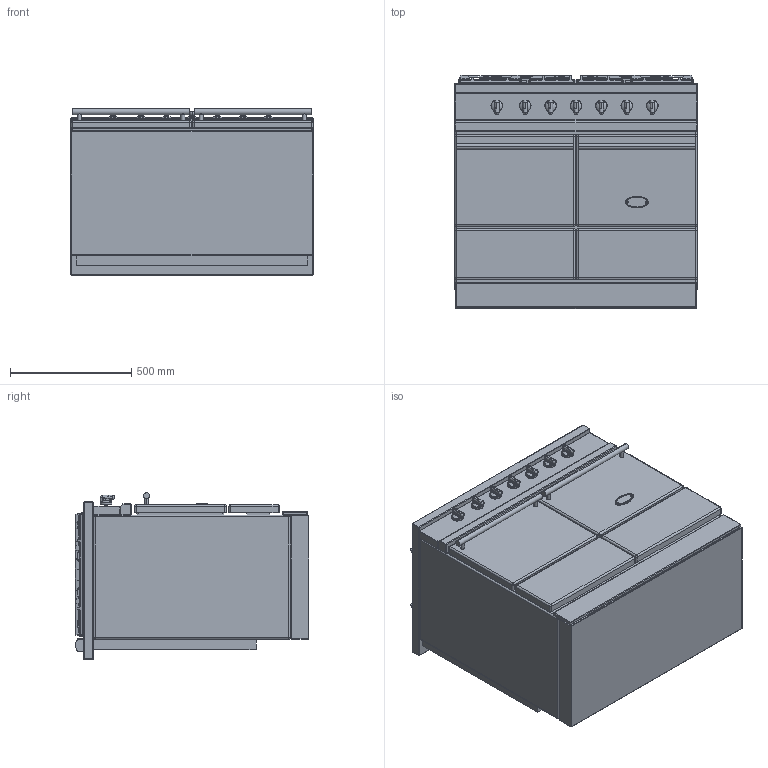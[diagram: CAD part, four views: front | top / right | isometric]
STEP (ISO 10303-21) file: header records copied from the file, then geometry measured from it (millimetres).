
FILE_DESCRIPTION((''),'2;1');
FILE_NAME('LMG1052_ASM','2022-04-13T11:33:14',('stagiaire'),(''),'CREO PARAMETRIC BY PTC INC, 2021424','CREO PARAMETRIC BY PTC INC, 2021424','');
FILE_SCHEMA(('AP203_CONFIGURATION_CONTROLLED_3D_DESIGN_OF_MECHANICAL_PARTS_AND_ASSEMBLIES_MIM_LF { 1 0 10303 403 2 1 2 }'));
Products named in the file (20): BASE_EXPORT_CLUNY_MODERN; 65064012; 19150009; 88064012_ASM; 65049009; 65650001; BASE_EXPORT_CLUNY_MODERN_ASM; TABLE_1000_CLASSIQUE; 3KW; 5KW; 1_5KW; 4KW; 6537025; 65149005; 90000488_ASM; 6537024; 90000487_ASM; CHEMINEE_2020_LG371_EXPORT_STEP; TABLE_1000_CLASSIQUE_ASM; LMG1052_ASM
Assembly tree (36 placements, depth 4):
  LMG1052_ASM
    BASE_EXPORT_CLUNY_MODERN_ASM
      BASE_EXPORT_CLUNY_MODERN
      88064012_ASM  x7
        65064012
        19150009
      65049009
      65650001
    TABLE_1000_CLASSIQUE_ASM
      TABLE_1000_CLASSIQUE
      3KW  x2
      5KW
      1_5KW
      4KW
      90000488_ASM  x2
        6537025
        65149005
      90000487_ASM  x2
        6537024
        65149005
      CHEMINEE_2020_LG371_EXPORT_STEP  x2
Bounding box: 1000 x 965 x 688.5 mm (x, y, z)
Volume: 531124590.4 mm3; surface area: 8818314.5 mm2
Topology: 49 solids, 49 shells, 5649 faces, 15453 edges, 9904 vertices
Faces by surface type: cylinder 1821, plane 1695, bspline 1325, cone 323, sphere 312, torus 131, extrusion 42
Entity records: 126864 total; most frequent: CARTESIAN_POINT 44936, ORIENTED_EDGE 12926, DIRECTION 11685, EDGE_CURVE 6463, PRESENTATION_STYLE_ASSIGNMENT 4360, STYLED_ITEM 4360, CURVE_STYLE 4212, AXIS2_PLACEMENT_3D 3944
